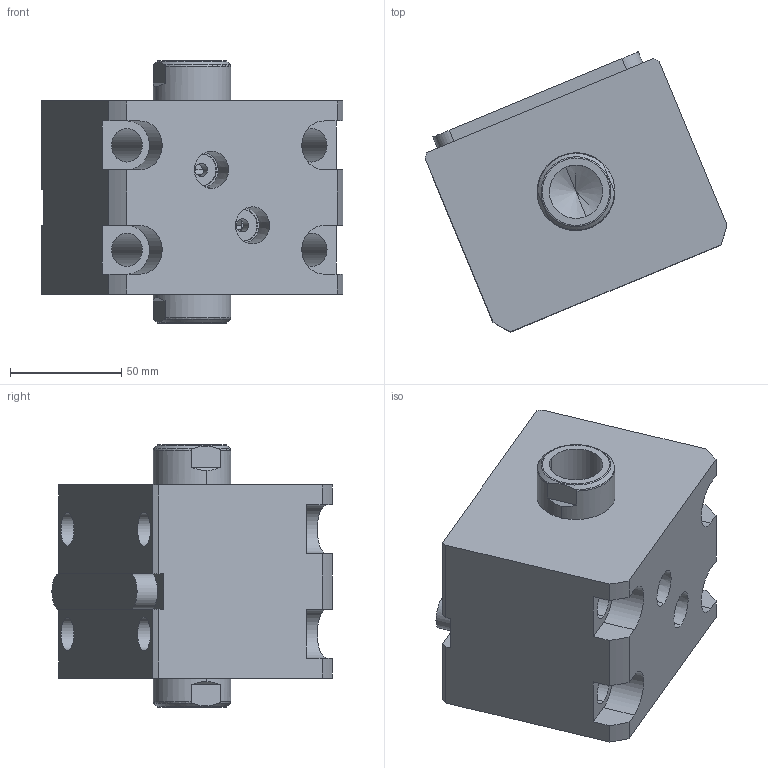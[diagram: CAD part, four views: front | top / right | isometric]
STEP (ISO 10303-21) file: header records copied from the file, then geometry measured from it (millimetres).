
FILE_DESCRIPTION (( 'STEP AP214' ), '1' );
FILE_NAME ('chtb-lw63x5n_asm.STEP', '2018-05-03T03:33:54', ( 'Windows' ), ( 'Microsoft' ), 'SwSTEP 2.0', 'SolidWorks 2015', '' );
FILE_SCHEMA (( 'AUTOMOTIVE_DESIGN' ));
Length unit declared in the file: millimetre
Products named in the file (5): CHTB-SW63X5NHSG; CHTB-LW63X5NBT; CHTB-LA63PJ; CHTB-63QG; chtb-lw63x5n_asm
Assembly tree (4 placements, depth 2):
  chtb-lw63x5n_asm
    CHTB-63QG
    CHTB-LA63PJ
    CHTB-LW63X5NBT
    CHTB-SW63X5NHSG
Bounding box: 135.77 x 126.06 x 118 mm (x, y, z)
Volume: 802416.8 mm3; surface area: 134746.2 mm2
Topology: 4 solids, 4 shells, 194 faces, 563 edges, 381 vertices
Faces by surface type: cylinder 104, plane 50, cone 16, bspline 12, torus 12
Entity records: 18887 total; most frequent: CARTESIAN_POINT 13868, ORIENTED_EDGE 1110, DIRECTION 876, EDGE_CURVE 555, VERTEX_POINT 381, AXIS2_PLACEMENT_3D 336, EDGE_LOOP 222, VECTOR 204
